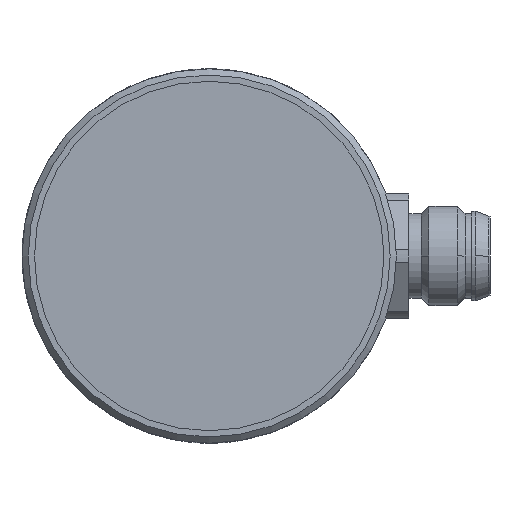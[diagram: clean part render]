
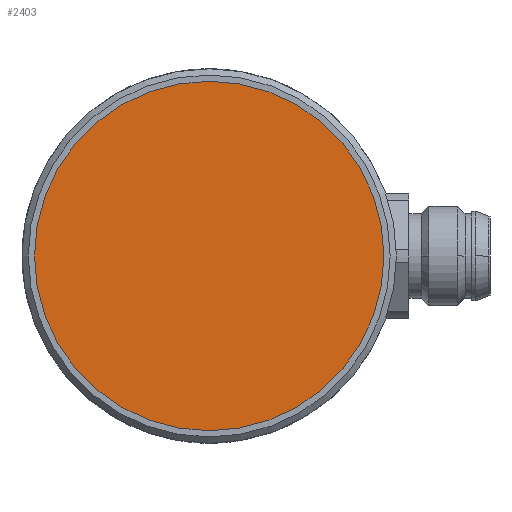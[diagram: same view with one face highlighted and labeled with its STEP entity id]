
A CAD part, left-side view. The second image highlights one B-rep face of the part: STEP entity #2403.
In plain terms, the highlighted planar face has unit normal (-1, 0, 0).
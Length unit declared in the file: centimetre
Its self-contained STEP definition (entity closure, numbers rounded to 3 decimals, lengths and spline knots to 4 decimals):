
#414=CIRCLE('',#2559,1.4);
#622=VERTEX_POINT('',#3751);
#1164=EDGE_CURVE('',#622,#622,#414,.T.);
#1545=ORIENTED_EDGE('',*,*,#1164,.T.);
#2083=EDGE_LOOP('',(#1545));
#2249=FACE_BOUND('',#2083,.T.);
#2403=ADVANCED_FACE('',(#2249),#4223,.F.);
#2559=AXIS2_PLACEMENT_3D('',#3750,#2896,#2897);
#2560=AXIS2_PLACEMENT_3D('',#3752,#2898,$);
#2896=DIRECTION('',(-1.,0.,0.));
#2897=DIRECTION('',(0.,0.,-1.4));
#2898=DIRECTION('',(1.,0.,0.));
#3750=CARTESIAN_POINT('',(-4.2,0.,0.));
#3751=CARTESIAN_POINT('',(-4.2,0.,-1.4));
#3752=CARTESIAN_POINT('',(-4.2,0.,0.));
#4223=PLANE('',#2560);
